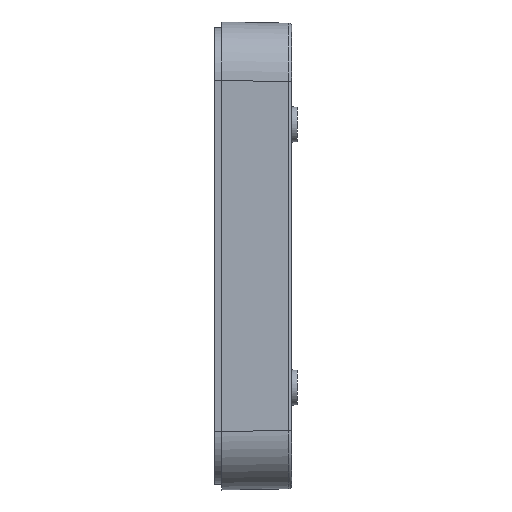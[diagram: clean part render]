
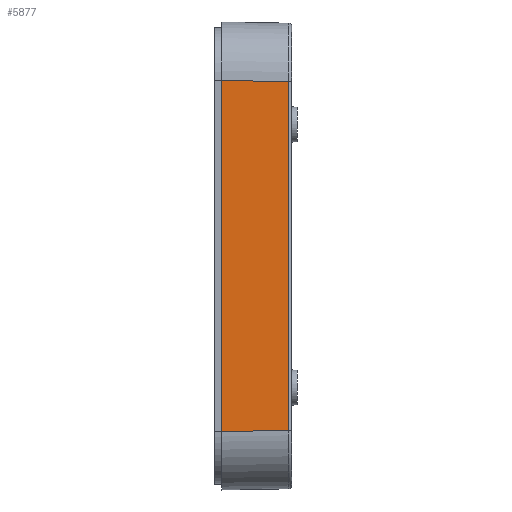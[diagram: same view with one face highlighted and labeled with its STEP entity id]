
A CAD part, left-side view. The second image highlights one B-rep face of the part: STEP entity #5877.
In plain terms, the highlighted planar face has unit normal (-1, -0.018, 0).
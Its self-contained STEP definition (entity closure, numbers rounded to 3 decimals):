
#195 = VECTOR ( 'NONE', #8864, 1000. ) ;
#331 = CARTESIAN_POINT ( 'NONE',  ( -45.035, 12., 0. ) ) ;
#1237 = DIRECTION ( 'NONE',  ( -1., -0.017, 0. ) ) ;
#1556 = CARTESIAN_POINT ( 'NONE',  ( -45., 10., -40. ) ) ;
#1713 = EDGE_CURVE ( 'NONE', #20899, #12871, #13590, .T. ) ;
#2849 = FACE_OUTER_BOUND ( 'NONE', #9258, .T. ) ;
#3285 = VECTOR ( 'NONE', #3681, 1000. ) ;
#3681 = DIRECTION ( 'NONE',  ( 0., 0., 1. ) ) ;
#3719 = DIRECTION ( 'NONE',  ( 0.017, -1., 0.017 ) ) ;
#4407 = EDGE_CURVE ( 'NONE', #19065, #8954, #16767, .T. ) ;
#5877 = ADVANCED_FACE ( 'NONE', ( #2849 ), #14400, .T. ) ;
#6503 = CARTESIAN_POINT ( 'NONE',  ( -45.035, 12., -30.036 ) ) ;
#7712 = LINE ( 'NONE', #14076, #15566 ) ;
#8864 = DIRECTION ( 'NONE',  ( 0., 0., 1. ) ) ;
#8954 = VERTEX_POINT ( 'NONE', #16746 ) ;
#9258 = EDGE_LOOP ( 'NONE', ( #17472, #12763, #16976, #15891 ) ) ;
#10290 = CARTESIAN_POINT ( 'NONE',  ( -45.003, 10.174, -30.005 ) ) ;
#12763 = ORIENTED_EDGE ( 'NONE', *, *, #4407, .T. ) ;
#12871 = VERTEX_POINT ( 'NONE', #15303 ) ;
#12885 = DIRECTION ( 'NONE',  ( 0.017, -1., 0. ) ) ;
#13322 = CARTESIAN_POINT ( 'NONE',  ( -44.834, 0.491, 29.827 ) ) ;
#13590 = LINE ( 'NONE', #331, #3285 ) ;
#13766 = CARTESIAN_POINT ( 'NONE',  ( -44.834, 0.491, -29.836 ) ) ;
#13769 = VECTOR ( 'NONE', #3719, 1000. ) ;
#14076 = CARTESIAN_POINT ( 'NONE',  ( -44.979, 8.779, 29.98 ) ) ;
#14400 = PLANE ( 'NONE',  #14834 ) ;
#14819 = EDGE_CURVE ( 'NONE', #8954, #12871, #7712, .T. ) ;
#14834 = AXIS2_PLACEMENT_3D ( 'NONE', #1556, #1237, #12885 ) ;
#15253 = LINE ( 'NONE', #10290, #13769 ) ;
#15303 = CARTESIAN_POINT ( 'NONE',  ( -45.035, 12., 30.036 ) ) ;
#15566 = VECTOR ( 'NONE', #17408, 1000. ) ;
#15891 = ORIENTED_EDGE ( 'NONE', *, *, #1713, .F. ) ;
#16746 = CARTESIAN_POINT ( 'NONE',  ( -44.834, 0.491, 29.836 ) ) ;
#16767 = LINE ( 'NONE', #13322, #195 ) ;
#16976 = ORIENTED_EDGE ( 'NONE', *, *, #14819, .T. ) ;
#17335 = EDGE_CURVE ( 'NONE', #20899, #19065, #15253, .T. ) ;
#17408 = DIRECTION ( 'NONE',  ( -0.017, 1., 0.017 ) ) ;
#17472 = ORIENTED_EDGE ( 'NONE', *, *, #17335, .T. ) ;
#19065 = VERTEX_POINT ( 'NONE', #13766 ) ;
#20899 = VERTEX_POINT ( 'NONE', #6503 ) ;
